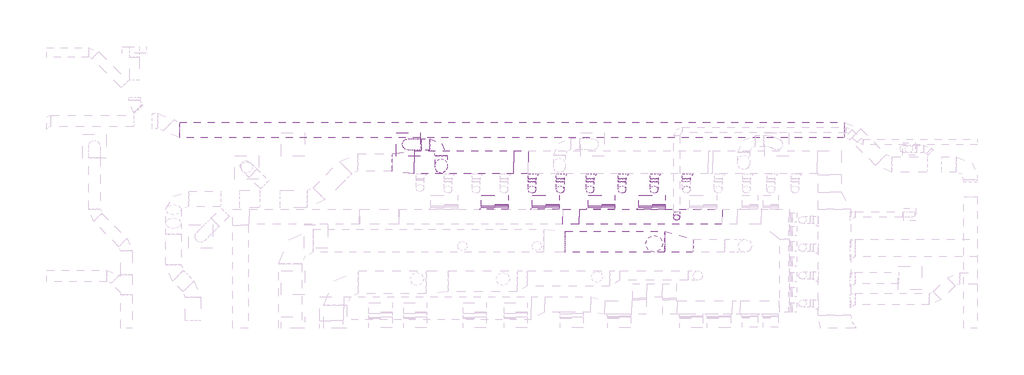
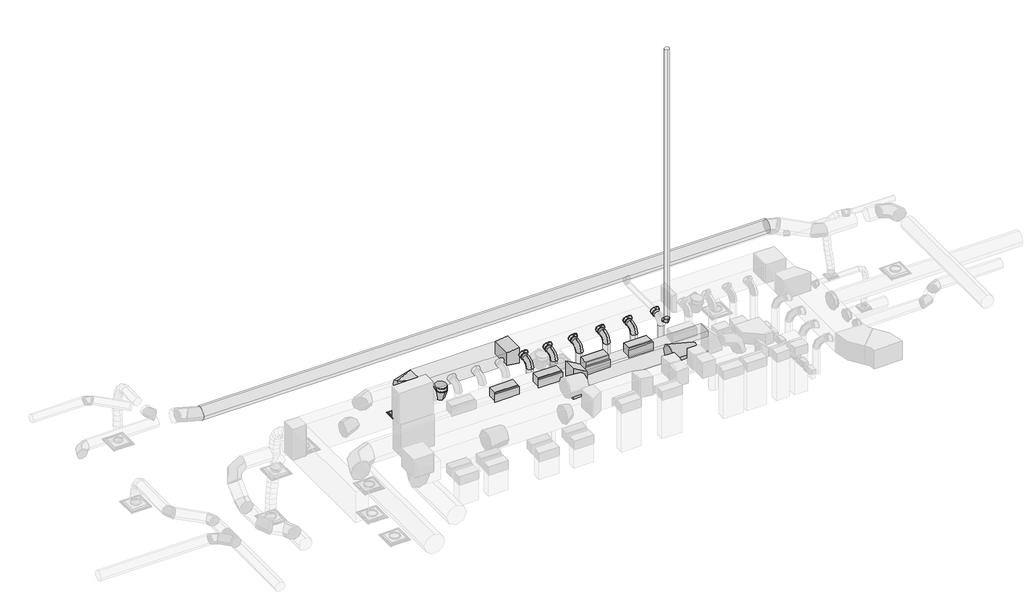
# One storey, part 23 of 33: 28 duct segments, 27 duct fittings, 1 air terminal.
"""IFC4 building model written with IfcOpenShell, lengths in millimetres."""

from ifc_helpers import new_model, si_unit, point, frame, frame_2d, origin, place, context, project, spatial, polyline, circle_curve, ellipse_curve, trimmed, segment, composite_curve, outline, extrude, transform, mapped, element, save
from ifc_brep_helpers import plane_surface, cylinder_surface, advanced_brep
from components import air_terminal_edad7168, rectangular_elbow_mitered_standard_22d18bc9, rectangular_tap_beveled_standard_61150e1b, rectangular_transition_angle_15_degree_f904afc0, rectangular_transition_angle_30_degree_5d7b45e3, rectangular_to_round_transition_angle_15_degree_e7a519f7, round_elbow_1_d_b37ad80b, round_elbow_1_d_a253342a, round_elbow_1_d_dc33e73c, round_takeoff_shoe_standard_1102fee2, round_takeoff_shoe_standard_53aee1e3, round_transition_angle_15_degree_ade4631c

model = new_model("IFC4")

# Units and contexts
model_context = context("Model", 3, world=origin())
ifc_project = project(units=[si_unit("LENGTHUNIT", "METRE", prefix="MILLI")], contexts=[model_context])

# Site, building, storey
site = spatial("IfcSite", under=ifc_project)
building = spatial("IfcBuilding", under=site)
storey = spatial("IfcBuildingStorey", under=building, Name="T.O. SLAB - 1ST", Elevation=-25.4)

# Air terminal
placement = place(None, origin())
air_terminal_shape = air_terminal_edad7168(model_context)
element("IfcAirTerminal", 1, ObjectType="Titus-Round_Neck_Supply_Diffuser-PCS_Surface_Mount : PCS AA-12_24x24", at=placement, inside=storey, context=model_context, shape_type="MappedRepresentation", body=[
    mapped(air_terminal_shape, transform((16332.2, 30772.0034288, 2717.8), x_axis=(0.0, -1.0, 0.0), y_axis=(-1.0, 0.0, 0.0), z_axis=(0.0, 0.0, -1.0))),
])

# Duct fittings
rectangular_elbow_mitered_standard_shape = rectangular_elbow_mitered_standard_22d18bc9(model_context)
element("IfcDuctFitting", 2, ObjectType="Rectangular Elbow - Mitered : Standard", at=placement, inside=storey, context=model_context, shape_type="MappedRepresentation", body=[
    mapped(rectangular_elbow_mitered_standard_shape, transform((18627.1906001, 29296.6861634, 3632.2), x_axis=(0.0, 0.0, 1.0), y_axis=(0.0, -1.0, 0.0), z_axis=(1.0, 0.0, 0.0))),
])
element("IfcDuctFitting", 3, ObjectType="Rectangular Elbow - Mitered : Standard", at=placement, inside=storey, context=model_context, shape_type="MappedRepresentation", body=[
    mapped(rectangular_elbow_mitered_standard_shape, transform((19977.3339544, 29296.6861634, 3632.2), x_axis=(0.0, 0.0, 1.0), y_axis=(0.0, -1.0, 0.0), z_axis=(1.0, 0.0, 0.0))),
])
element("IfcDuctFitting", 4, ObjectType="Rectangular Elbow - Mitered : Standard", at=placement, inside=storey, context=model_context, shape_type="MappedRepresentation", body=[
    mapped(rectangular_elbow_mitered_standard_shape, transform((21448.7074222, 29296.6861634, 3632.2), x_axis=(0.0, 0.0, 1.0), y_axis=(0.0, -1.0, 0.0), z_axis=(1.0, 0.0, 0.0))),
])
element("IfcDuctFitting", 5, ObjectType="Rectangular Elbow - Mitered : Standard", at=placement, inside=storey, context=model_context, shape_type="MappedRepresentation", body=[
    mapped(rectangular_elbow_mitered_standard_shape, transform((22784.2453145, 29296.6861634, 3632.2), x_axis=(0.0, 0.0, 1.0), y_axis=(0.0, -1.0, 0.0), z_axis=(1.0, 0.0, 0.0))),
])
rectangular_tap_beveled_standard_shape = rectangular_tap_beveled_standard_61150e1b(model_context)
element("IfcDuctFitting", 6, ObjectType="Rectangular Tap - Beveled : Standard", at=placement, inside=storey, context=model_context, shape_type="MappedRepresentation", body=[
    mapped(rectangular_tap_beveled_standard_shape, transform((18627.1906001, 29062.2191303, 3632.2), x_axis=(0.0, 1.0, 0.0), y_axis=(1.0, 0.0, 0.0), z_axis=(0.0, 0.0, -1.0))),
])
element("IfcDuctFitting", 7, ObjectType="Rectangular Tap - Beveled : Standard", at=placement, inside=storey, context=model_context, shape_type="MappedRepresentation", body=[
    mapped(rectangular_tap_beveled_standard_shape, transform((19977.3339544, 29062.2191303, 3632.2), x_axis=(0.0, 1.0, 0.0), y_axis=(1.0, 0.0, 0.0), z_axis=(0.0, 0.0, -1.0))),
])
element("IfcDuctFitting", 8, ObjectType="Rectangular Tap - Beveled : Standard", at=placement, inside=storey, context=model_context, shape_type="MappedRepresentation", body=[
    mapped(rectangular_tap_beveled_standard_shape, transform((21448.7074222, 29062.2191303, 3530.6), x_axis=(0.0, 1.0, 0.0), y_axis=(1.0, 0.0, 0.0), z_axis=(0.0, 0.0, -1.0))),
])
element("IfcDuctFitting", 9, ObjectType="Rectangular Tap - Beveled : Standard", at=placement, inside=storey, context=model_context, shape_type="MappedRepresentation", body=[
    mapped(rectangular_tap_beveled_standard_shape, transform((22784.2453145, 29062.2191303, 3632.2), x_axis=(0.0, 1.0, 0.0), y_axis=(1.0, 0.0, 0.0), z_axis=(0.0, 0.0, -1.0))),
])
rectangular_transition_angle_15_degree_shape = rectangular_transition_angle_15_degree_f904afc0(model_context)
element("IfcDuctFitting", 10, ObjectType="Rectangular Transition - Angle : 15 Degree", at=placement, inside=storey, context=model_context, shape_type="MappedRepresentation", body=[
    mapped(rectangular_transition_angle_15_degree_shape, transform((19515.6150589, 30294.4408687, 4038.6), x_axis=(-1.0, 0.0, 0.0), y_axis=(0.0, -1.0, 0.0), z_axis=(0.0, 0.0, 1.0))),
])
rectangular_transition_angle_30_degree_shape = rectangular_transition_angle_30_degree_5d7b45e3(model_context)
element("IfcDuctFitting", 11, ObjectType="Rectangular Transition - Angle : 30 Degree", at=placement, inside=storey, context=model_context, shape_type="MappedRepresentation", body=[
    mapped(rectangular_transition_angle_30_degree_shape, transform((20419.896851, 28859.0191303, 3583.94), x_axis=(1.0, 0.0, 0.0), y_axis=(0.0, 1.0, 0.0), z_axis=(0.0, 0.0, 1.0))),
])
rectangular_to_round_transition_angle_15_degree_shape = rectangular_to_round_transition_angle_15_degree_e7a519f7(model_context)
element("IfcDuctFitting", 12, ObjectType="Rectangular to Round Transition - Angle : 15 Degree", at=placement, inside=storey, context=model_context, shape_type="MappedRepresentation", body=[
    mapped(rectangular_to_round_transition_angle_15_degree_shape, transform((16486.9873343, 30294.4408687, 4038.6), x_axis=(-1.0, 0.0, 0.0), y_axis=(0.0, -1.0, 0.0), z_axis=(0.0, 0.0, 1.0))),
])
round_elbow_1_d_shape = round_elbow_1_d_b37ad80b(model_context)
element("IfcDuctFitting", 13, ObjectType="Round Elbow : 1 D", at=placement, inside=storey, context=model_context, shape_type="MappedRepresentation", body=[
    mapped(round_elbow_1_d_shape, transform((23437.194317, 28838.9610782, 4437.3601563), x_axis=(0.0, -1.0, 0.0), y_axis=(0.0, 0.0, 1.0), z_axis=(-1.0, 0.0, 0.0))),
])
round_elbow_1_d_2_shape = round_elbow_1_d_a253342a(model_context)
element("IfcDuctFitting", 14, ObjectType="Round Elbow : 1 D", at=placement, inside=storey, context=model_context, shape_type="MappedRepresentation", body=[
    mapped(round_elbow_1_d_2_shape, transform((22841.1839544, 29579.704725, 4038.6), x_axis=(0.0, 0.0, 1.0), y_axis=(0.0, 1.0, 0.0), z_axis=(-1.0, 0.0, 0.0))),
])
element("IfcDuctFitting", 15, ObjectType="Round Elbow : 1 D", at=placement, inside=storey, context=model_context, shape_type="MappedRepresentation", body=[
    mapped(round_elbow_1_d_2_shape, transform((21990.2839544, 29579.704725, 4038.6), x_axis=(0.0, 0.0, 1.0), y_axis=(0.0, 1.0, 0.0), z_axis=(-1.0, 0.0, 0.0))),
])
element("IfcDuctFitting", 16, ObjectType="Round Elbow : 1 D", at=placement, inside=storey, context=model_context, shape_type="MappedRepresentation", body=[
    mapped(round_elbow_1_d_2_shape, transform((21145.7339544, 29579.704725, 4038.6), x_axis=(0.0, 0.0, 1.0), y_axis=(0.0, 1.0, 0.0), z_axis=(-1.0, 0.0, 0.0))),
])
element("IfcDuctFitting", 17, ObjectType="Round Elbow : 1 D", at=placement, inside=storey, context=model_context, shape_type="MappedRepresentation", body=[
    mapped(round_elbow_1_d_2_shape, transform((20355.7163892, 29579.704725, 4038.6), x_axis=(0.0, 0.0, 1.0), y_axis=(0.0, 1.0, 0.0), z_axis=(-1.0, 0.0, 0.0))),
])
element("IfcDuctFitting", 18, ObjectType="Round Elbow : 1 D", at=placement, inside=storey, context=model_context, shape_type="MappedRepresentation", body=[
    mapped(round_elbow_1_d_2_shape, transform((19609.0339544, 29579.704725, 4038.6), x_axis=(0.0, 0.0, 1.0), y_axis=(0.0, 1.0, 0.0), z_axis=(-1.0, 0.0, 0.0))),
])
round_elbow_1_d_3_shape = round_elbow_1_d_dc33e73c(model_context)
element("IfcDuctFitting", 19, ObjectType="Round Elbow : 1 D", at=placement, inside=storey, context=model_context, shape_type="MappedRepresentation", body=[
    mapped(round_elbow_1_d_3_shape, transform((17207.4477773, 30772.4213586, 3295.904), x_axis=(1.0, 0.0, 0.0), y_axis=(0.0, 1.0, 0.0), z_axis=(0.0, 0.0, 1.0))),
])
element("IfcDuctFitting", 20, ObjectType="Round Elbow : 1 D", at=placement, inside=storey, context=model_context, shape_type="MappedRepresentation", body=[
    mapped(round_elbow_1_d_3_shape, transform((17207.4477773, 30162.8213586, 3295.904), x_axis=(0.0, -1.0, 0.0), y_axis=(0.0, 0.0, -1.0), z_axis=(1.0, 0.0, 0.0))),
])
round_takeoff_shoe_standard_shape = round_takeoff_shoe_standard_1102fee2(model_context)
element("IfcDuctFitting", 21, ObjectType="Round Takeoff - Shoe : Standard", at=placement, inside=storey, context=model_context, shape_type="MappedRepresentation", body=[
    mapped(round_takeoff_shoe_standard_shape, transform((23691.2432215, 29989.6408687, 4038.6), x_axis=(0.0, -1.0, 0.0), y_axis=(1.0000000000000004, 0.0, 0.0), z_axis=(0.0, 0.0, 1.0000000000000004))),
])
element("IfcDuctFitting", 22, ObjectType="Round Takeoff - Shoe : Standard", at=placement, inside=storey, context=model_context, shape_type="MappedRepresentation", body=[
    mapped(round_takeoff_shoe_standard_shape, transform((22841.1839544, 29989.6408687, 4038.6), x_axis=(0.0, -1.0, 0.0), y_axis=(1.0000000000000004, 0.0, 0.0), z_axis=(0.0, 0.0, 1.0000000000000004))),
])
element("IfcDuctFitting", 23, ObjectType="Round Takeoff - Shoe : Standard", at=placement, inside=storey, context=model_context, shape_type="MappedRepresentation", body=[
    mapped(round_takeoff_shoe_standard_shape, transform((21990.2839544, 29989.6408687, 4038.6), x_axis=(0.0, -1.0, 0.0), y_axis=(1.0000000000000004, 0.0, 0.0), z_axis=(0.0, 0.0, 1.0000000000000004))),
])
element("IfcDuctFitting", 24, ObjectType="Round Takeoff - Shoe : Standard", at=placement, inside=storey, context=model_context, shape_type="MappedRepresentation", body=[
    mapped(round_takeoff_shoe_standard_shape, transform((21145.7339544, 29989.6408687, 4038.6), x_axis=(0.0, -1.0, 0.0), y_axis=(1.0000000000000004, 0.0, 0.0), z_axis=(0.0, 0.0, 1.0000000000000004))),
])
element("IfcDuctFitting", 25, ObjectType="Round Takeoff - Shoe : Standard", at=placement, inside=storey, context=model_context, shape_type="MappedRepresentation", body=[
    mapped(round_takeoff_shoe_standard_shape, transform((20355.7163892, 29989.6408687, 4038.6), x_axis=(0.0, -1.0, 0.0), y_axis=(1.0000000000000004, 0.0, 0.0), z_axis=(0.0, 0.0, 1.0000000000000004))),
])
element("IfcDuctFitting", 26, ObjectType="Round Takeoff - Shoe : Standard", at=placement, inside=storey, context=model_context, shape_type="MappedRepresentation", body=[
    mapped(round_takeoff_shoe_standard_shape, transform((19609.0339544, 29989.6408687, 4038.6), x_axis=(0.0, -1.0, 0.0), y_axis=(1.0000000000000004, 0.0, 0.0), z_axis=(0.0, 0.0, 1.0000000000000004))),
])
round_takeoff_shoe_standard_2_shape = round_takeoff_shoe_standard_53aee1e3(model_context)
element("IfcDuctFitting", 27, ObjectType="Round Takeoff - Shoe : Standard", at=placement, inside=storey, context=model_context, shape_type="MappedRepresentation", body=[
    mapped(round_takeoff_shoe_standard_2_shape, transform((17207.4477773, 30162.8213586, 3727.704), x_axis=(0.0, 0.0, -1.0), y_axis=(0.0, -1.0000000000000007, 0.0), z_axis=(-1.0000000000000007, 0.0, 0.0))),
])
round_transition_angle_15_degree_shape = round_transition_angle_15_degree_ade4631c(model_context)
element("IfcDuctFitting", 28, ObjectType="Round Transition - Angle : 15 Degree", at=placement, inside=storey, context=model_context, shape_type="MappedRepresentation", body=[
    mapped(round_transition_angle_15_degree_shape, transform((23120.5839544, 28192.2045473, 3892.55), x_axis=(1.0, 0.0, 0.0), y_axis=(0.0, 1.0, 0.0), z_axis=(0.0, 0.0, 1.0))),
])

# Duct segments
element("IfcDuctSegment", 29, ObjectType="Flex - Round", at=placement, inside=storey, context=model_context, shape_type="AdvancedBrep", body=[
    advanced_brep(
    [(16674.0477773, 30620.0213586, 3295.904), (16674.0477773, 30772.4213586, 3143.504), (16674.0477773, 30924.8213586, 3295.904), (16674.0477773, 30772.4213586, 3448.304), (16643.5881971, 30620.0213586, 3295.904), (16667.7773564, 30772.4213586, 3143.504), (16643.5208732, 30924.8213586, 3295.904), (16619.3317139, 30772.4213586, 3448.304), (16332.338602, 30619.6034919, 2806.7), (16179.800063, 30771.8648268, 2806.7), (16332.061398, 30924.4033658, 2806.7), (16484.599937, 30772.1420308, 2806.7), (16592.5598146, 30619.9982322, 3279.2624419), (16657.2826116, 30772.4166023, 3140.0814164), (16592.3857623, 30924.7981838, 3279.2276353), (16527.6629652, 30772.3798137, 3418.4086608), (16519.4014027, 30619.9385577, 3233.7584128), (16616.8674096, 30772.3836361, 3114.9434387), (16519.1543026, 30924.7384498, 3233.678171), (16421.6882957, 30772.2933714, 3352.4931451), (16456.1268652, 30619.8569477, 3166.0609758), (16577.4643711, 30772.332815, 3072.7861219), (16455.8388479, 30924.656787, 3165.9369566), (16334.501342, 30772.1809196, 3259.2118105), (16404.2571944, 30619.7680099, 3082.8331011), (16539.7974276, 30772.2682298, 3012.3473412), (16403.9581789, 30924.5678304, 3082.6914346), (16268.4179458, 30772.0676105, 3153.1771945), (16365.3194439, 30619.6863687, 2990.7488126), (16509.8783511, 30772.2054981, 2941.5914082), (16365.0250152, 30924.4861987, 2990.6179937), (16220.4661081, 30771.9670693, 3039.7753981), (16340.8383008, 30619.6266516, 2896.4826364), (16490.9244625, 30772.1592637, 2868.6082721), (16340.5544428, 30924.4265074, 2896.3925205), (16190.4682811, 30771.8938952, 2924.2668848), (16332.338602, 30619.6034919, 2821.080616), (16484.599937, 30772.1420308, 2812.5025189), (16332.061398, 30924.4033658, 2821.0495288), (16179.800063, 30771.8648268, 2829.627626)],
    [
        (0, 1, circle_curve(frame((16674.0477773, 30772.4213586, 3295.904), z_axis=(1.0, 0.0, 0.0), x_axis=(0.0, -1.0, 0.0)), 152.4)),
        (1, 2, circle_curve(frame((16674.0477773, 30772.4213586, 3295.904), z_axis=(1.0, 0.0, 0.0), x_axis=(0.0, -1.0, 0.0)), 152.4)),
        (2, 3, circle_curve(frame((16674.0477773, 30772.4213586, 3295.904), z_axis=(1.0, 0.0, 0.0), x_axis=(0.0, -1.0, 0.0)), 152.4)),
        (3, 0, circle_curve(frame((16674.0477773, 30772.4213586, 3295.904), z_axis=(1.0, 0.0, 0.0), x_axis=(0.0, -1.0, 0.0)), 152.4)),
        (0, 4),
        (4, 5, ellipse_curve(frame((16643.5545352, 30772.4213586, 3295.904), z_axis=(0.9876030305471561, 0.00021814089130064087, 0.15697199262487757), x_axis=(0.15697214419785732, -0.0013724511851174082, -0.9876020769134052)), 154.3130137, 152.4)),
        (5, 1),
        (5, 6, ellipse_curve(frame((16643.5545352, 30772.4213586, 3295.904), z_axis=(0.9876030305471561, 0.00021814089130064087, 0.15697199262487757), x_axis=(0.15697214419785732, -0.0013724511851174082, -0.9876020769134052)), 154.3130137, 152.4)),
        (6, 2),
        (6, 7, ellipse_curve(frame((16643.5545352, 30772.4213586, 3295.904), z_axis=(0.9876030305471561, 0.00021814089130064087, 0.15697199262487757), x_axis=(0.15697214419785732, -0.0013724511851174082, -0.9876020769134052)), 154.3130137, 152.4)),
        (7, 3),
        (7, 4, ellipse_curve(frame((16643.5545352, 30772.4213586, 3295.904), z_axis=(0.9876030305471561, 0.00021814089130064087, 0.15697199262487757), x_axis=(0.15697214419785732, -0.0013724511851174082, -0.9876020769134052)), 154.3130137, 152.4)),
        (8, 9, circle_curve(frame((16332.2, 30772.0034288, 2806.7), z_axis=(0.0, 0.0, -1.0), x_axis=(0.0009094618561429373, -0.9999995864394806, 0.0)), 152.4)),
        (9, 10, circle_curve(frame((16332.2, 30772.0034288, 2806.7), z_axis=(0.0, 0.0, -1.0), x_axis=(0.0009094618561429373, -0.9999995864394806, 0.0)), 152.4)),
        (10, 11, circle_curve(frame((16332.2, 30772.0034288, 2806.7), z_axis=(0.0, 0.0, -1.0), x_axis=(0.0009094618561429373, -0.9999995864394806, 0.0)), 152.4)),
        (11, 8, circle_curve(frame((16332.2, 30772.0034288, 2806.7), z_axis=(0.0, 0.0, -1.0), x_axis=(0.0009094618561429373, -0.9999995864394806, 0.0)), 152.4)),
        (4, 12),
        (12, 13, ellipse_curve(frame((16592.4727884, 30772.398208, 3279.2450386), z_axis=(0.9065151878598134, 0.0005658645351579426, 0.42217282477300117), x_axis=(0.4221732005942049, -0.0010879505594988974, -0.9065145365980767)), 153.5149106, 152.4)),
        (13, 5),
        (13, 14, ellipse_curve(frame((16592.4727884, 30772.398208, 3279.2450386), z_axis=(0.9065151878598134, 0.0005658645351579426, 0.42217282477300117), x_axis=(0.4221732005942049, -0.0010879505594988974, -0.9065145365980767)), 153.5149106, 152.4)),
        (14, 6),
        (14, 15, ellipse_curve(frame((16592.4727884, 30772.398208, 3279.2450386), z_axis=(0.9065151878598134, 0.0005658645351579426, 0.42217282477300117), x_axis=(0.4221732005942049, -0.0010879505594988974, -0.9065145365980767)), 153.5149106, 152.4)),
        (15, 7),
        (15, 12, ellipse_curve(frame((16592.4727884, 30772.398208, 3279.2450386), z_axis=(0.9065151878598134, 0.0005658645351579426, 0.42217282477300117), x_axis=(0.4221732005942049, -0.0010879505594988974, -0.9065145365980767)), 153.5149106, 152.4)),
        (12, 16),
        (16, 17, ellipse_curve(frame((16519.2778527, 30772.3385038, 3233.7182919), z_axis=(0.7726476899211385, 0.000793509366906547, 0.6348345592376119), x_axis=(0.6348350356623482, -0.0007179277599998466, -0.7726473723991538)), 153.7243957, 152.4)),
        (17, 13),
        (17, 18, ellipse_curve(frame((16519.2778527, 30772.3385038, 3233.7182919), z_axis=(0.7726476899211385, 0.000793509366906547, 0.6348345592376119), x_axis=(0.6348350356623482, -0.0007179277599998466, -0.7726473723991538)), 153.7243957, 152.4)),
        (18, 14),
        (18, 19, ellipse_curve(frame((16519.2778527, 30772.3385038, 3233.7182919), z_axis=(0.7726476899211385, 0.000793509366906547, 0.6348345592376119), x_axis=(0.6348350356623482, -0.0007179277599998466, -0.7726473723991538)), 153.7243957, 152.4)),
        (19, 15),
        (19, 16, ellipse_curve(frame((16519.2778527, 30772.3385038, 3233.7182919), z_axis=(0.7726476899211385, 0.000793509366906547, 0.6348345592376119), x_axis=(0.6348350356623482, -0.0007179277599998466, -0.7726473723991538)), 153.7243957, 152.4)),
        (16, 20),
        (20, 21, ellipse_curve(frame((16455.9828566, 30772.2568673, 3165.9989662), z_axis=(0.6087476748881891, 0.0008980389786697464, 0.7933633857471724), x_axis=(0.7933637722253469, -0.00013498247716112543, -0.6087478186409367)), 153.1221688, 152.4)),
        (21, 17),
        (21, 22, ellipse_curve(frame((16455.9828566, 30772.2568673, 3165.9989662), z_axis=(0.6087476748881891, 0.0008980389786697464, 0.7933633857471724), x_axis=(0.7933637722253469, -0.00013498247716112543, -0.6087478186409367)), 153.1221688, 152.4)),
        (22, 18),
        (22, 23, ellipse_curve(frame((16455.9828566, 30772.2568673, 3165.9989662), z_axis=(0.6087476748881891, 0.0008980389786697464, 0.7933633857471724), x_axis=(0.7933637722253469, -0.00013498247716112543, -0.6087478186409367)), 153.1221688, 152.4)),
        (23, 19),
        (23, 20, ellipse_curve(frame((16455.9828566, 30772.2568673, 3165.9989662), z_axis=(0.6087476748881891, 0.0008980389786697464, 0.7933633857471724), x_axis=(0.7933637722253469, -0.00013498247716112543, -0.6087478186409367)), 153.1221688, 152.4)),
        (20, 24),
        (24, 25, ellipse_curve(frame((16404.1076867, 30772.1679202, 3082.7622678), z_axis=(0.4606117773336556, 0.0008644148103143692, 0.8876012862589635), x_axis=(0.8876012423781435, 0.0005748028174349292, -0.46061231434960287)), 152.8724231, 152.4)),
        (25, 21),
        (25, 26, ellipse_curve(frame((16404.1076867, 30772.1679202, 3082.7622678), z_axis=(0.4606117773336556, 0.0008644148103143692, 0.8876012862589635), x_axis=(0.8876012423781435, 0.0005748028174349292, -0.46061231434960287)), 152.8724231, 152.4)),
        (26, 22),
        (26, 27, ellipse_curve(frame((16404.1076867, 30772.1679202, 3082.7622678), z_axis=(0.4606117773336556, 0.0008644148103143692, 0.8876012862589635), x_axis=(0.8876012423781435, 0.0005748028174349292, -0.46061231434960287)), 152.8724231, 152.4)),
        (27, 23),
        (27, 24, ellipse_curve(frame((16404.1076867, 30772.1679202, 3082.7622678), z_axis=(0.4606117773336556, 0.0008644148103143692, 0.8876012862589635), x_axis=(0.8876012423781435, 0.0005748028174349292, -0.46061231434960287)), 152.8724231, 152.4)),
        (24, 28),
        (28, 29, ellipse_curve(frame((16365.1722296, 30772.0862837, 2990.6834032), z_axis=(0.32126800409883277, 0.0007167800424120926, 0.9469880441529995), x_axis=(0.9469870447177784, 0.001395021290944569, -0.32126872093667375)), 152.8067401, 152.4)),
        (29, 25),
        (29, 30, ellipse_curve(frame((16365.1722296, 30772.0862837, 2990.6834032), z_axis=(0.32126800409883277, 0.0007167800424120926, 0.9469880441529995), x_axis=(0.9469870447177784, 0.001395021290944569, -0.32126872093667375)), 152.8067401, 152.4)),
        (30, 26),
        (30, 31, ellipse_curve(frame((16365.1722296, 30772.0862837, 2990.6834032), z_axis=(0.32126800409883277, 0.0007167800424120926, 0.9469880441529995), x_axis=(0.9469870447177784, 0.001395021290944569, -0.32126872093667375)), 152.8067401, 152.4)),
        (31, 27),
        (31, 28, ellipse_curve(frame((16365.1722296, 30772.0862837, 2990.6834032), z_axis=(0.32126800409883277, 0.0007167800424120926, 0.9469880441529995), x_axis=(0.9469870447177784, 0.001395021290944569, -0.32126872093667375)), 152.8067401, 152.4)),
        (28, 32),
        (32, 33, ellipse_curve(frame((16340.6963718, 30772.0265795, 2896.4375784), z_axis=(0.18214763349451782, 0.00046034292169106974, 0.9832710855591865), x_axis=(0.9832686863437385, 0.0021728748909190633, -0.18214820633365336)), 152.7840546, 152.4)),
        (33, 29),
        (33, 34, ellipse_curve(frame((16340.6963718, 30772.0265795, 2896.4375784), z_axis=(0.18214763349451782, 0.00046034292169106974, 0.9832710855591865), x_axis=(0.9832686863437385, 0.0021728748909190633, -0.18214820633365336)), 152.7840546, 152.4)),
        (34, 30),
        (34, 35, ellipse_curve(frame((16340.6963718, 30772.0265795, 2896.4375784), z_axis=(0.18214763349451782, 0.00046034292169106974, 0.9832710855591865), x_axis=(0.9832686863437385, 0.0021728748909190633, -0.18214820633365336)), 152.7840546, 152.4)),
        (35, 31),
        (35, 32, ellipse_curve(frame((16340.6963718, 30772.0265795, 2896.4375784), z_axis=(0.18214763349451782, 0.00046034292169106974, 0.9832710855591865), x_axis=(0.9832686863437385, 0.0021728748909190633, -0.18214820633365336)), 152.7840546, 152.4)),
        (32, 36),
        (36, 37, ellipse_curve(frame((16332.2, 30772.0034288, 2821.0650724), z_axis=(0.056096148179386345, 0.000152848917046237, 0.99842535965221), x_axis=(0.9984216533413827, 0.002720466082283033, -0.05609635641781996)), 152.6403537, 152.4)),
        (37, 33),
        (37, 38, ellipse_curve(frame((16332.2, 30772.0034288, 2821.0650724), z_axis=(0.056096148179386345, 0.000152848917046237, 0.99842535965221), x_axis=(0.9984216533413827, 0.002720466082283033, -0.05609635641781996)), 152.6403537, 152.4)),
        (38, 34),
        (38, 39, ellipse_curve(frame((16332.2, 30772.0034288, 2821.0650724), z_axis=(0.056096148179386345, 0.000152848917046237, 0.99842535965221), x_axis=(0.9984216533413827, 0.002720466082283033, -0.05609635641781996)), 152.6403537, 152.4)),
        (39, 35),
        (39, 36, ellipse_curve(frame((16332.2, 30772.0034288, 2821.0650724), z_axis=(0.056096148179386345, 0.000152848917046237, 0.99842535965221), x_axis=(0.9984216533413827, 0.002720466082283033, -0.05609635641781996)), 152.6403537, 152.4)),
        (36, 8),
        (11, 37),
        (10, 38),
        (9, 39),
    ],
    [
        plane_surface(frame((16674.0477773, 30772.4213586, 3143.504), z_axis=(1.0, 0.0, 0.0), x_axis=(0.0, -1.0, 0.0))),
        cylinder_surface(frame((16674.0477773, 30772.4213586, 3295.904), z_axis=(1.0, 0.0, 0.0), x_axis=(0.0, -1.0, 0.0)), 152.4),
        plane_surface(frame((16332.2, 30619.6034288, 2806.7), z_axis=(0.0, 0.0, -1.0), x_axis=(-1.0, 0.0, 0.0))),
        cylinder_surface(frame((16643.5545352, 30772.4213586, 3295.904), z_axis=(0.9507194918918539, 0.00043087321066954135, 0.3100520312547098), x_axis=(0.0004308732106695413, -0.9999999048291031, 6.848402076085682e-05)), 152.4),
        cylinder_surface(frame((16592.4727884, 30772.398208, 3279.2450386), z_axis=(0.8491436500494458, 0.0006926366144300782, 0.5281615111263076), x_axis=(0.0006962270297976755, -0.999999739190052, 0.00019206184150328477)), 152.4),
        cylinder_surface(frame((16519.2778527, 30772.3385038, 3233.7182919), z_axis=(0.682838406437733, 0.0008807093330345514, 0.7305689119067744), x_axis=(0.000902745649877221, -0.9999995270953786, 0.0003617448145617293)), 152.4),
        cylinder_surface(frame((16455.9828566, 30772.2568673, 3165.9989662), z_axis=(0.5289148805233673, 0.0009068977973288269, 0.8486743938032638), x_axis=(0.0009776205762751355, -0.999999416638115, 0.00045932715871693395)), 152.4),
        cylinder_surface(frame((16404.1076867, 30772.1679202, 3082.7622678), z_axis=(0.38946180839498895, 0.0008165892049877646, 0.921042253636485), x_axis=(0.000983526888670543, -0.9999994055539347, 0.0004707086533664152)), 152.4),
        cylinder_surface(frame((16365.1722296, 30772.0862837, 2990.6834032), z_axis=(0.25136390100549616, 0.0006131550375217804, 0.9678924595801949), x_axis=(0.0009546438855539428, -0.999999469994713, 0.00038557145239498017)), 152.4),
        cylinder_surface(frame((16340.6963718, 30772.0265795, 2896.4375784), z_axis=(0.1120156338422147, 0.0003052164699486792, 0.9937063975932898), x_axis=(0.0009208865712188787, -0.9999995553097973, 0.0002033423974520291)), 152.4),
        cylinder_surface(frame((16332.2, 30772.0034288, 2821.0650724), z_axis=(0.0, 0.0, 1.0), x_axis=(0.0009094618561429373, -0.9999995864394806, 0.0)), 152.4),
    ],
    [
        (0, [[1, 2, 3, 4]]),
        (1, [[-1, 5, 6, 7]]),
        (1, [[-2, -7, 8, 9]]),
        (1, [[-3, -9, 10, 11]]),
        (1, [[-4, -11, 12, -5]]),
        (2, [[13, 14, 15, 16]]),
        (3, [[-6, 17, 18, 19]]),
        (3, [[-8, -19, 20, 21]]),
        (3, [[-10, -21, 22, 23]]),
        (3, [[-12, -23, 24, -17]]),
        (4, [[-18, 25, 26, 27]]),
        (4, [[-20, -27, 28, 29]]),
        (4, [[-22, -29, 30, 31]]),
        (4, [[-24, -31, 32, -25]]),
        (5, [[-26, 33, 34, 35]]),
        (5, [[-28, -35, 36, 37]]),
        (5, [[-30, -37, 38, 39]]),
        (5, [[-32, -39, 40, -33]]),
        (6, [[-34, 41, 42, 43]]),
        (6, [[-36, -43, 44, 45]]),
        (6, [[-38, -45, 46, 47]]),
        (6, [[-40, -47, 48, -41]]),
        (7, [[-42, 49, 50, 51]]),
        (7, [[-44, -51, 52, 53]]),
        (7, [[-46, -53, 54, 55]]),
        (7, [[-48, -55, 56, -49]]),
        (8, [[-50, 57, 58, 59]]),
        (8, [[-52, -59, 60, 61]]),
        (8, [[-54, -61, 62, 63]]),
        (8, [[-56, -63, 64, -57]]),
        (9, [[-58, 65, 66, 67]]),
        (9, [[-60, -67, 68, 69]]),
        (9, [[-62, -69, 70, 71]]),
        (9, [[-64, -71, 72, -65]]),
        (10, [[-66, 73, -16, 74]]),
        (10, [[-68, -74, -15, 75]]),
        (10, [[-70, -75, -14, 76]]),
        (10, [[-72, -76, -13, -73]]),
    ],
),
])
element("IfcDuctSegment", 30, ObjectType="Mitered Elbows / Taps", at=placement, inside=storey, context=model_context, shape_type="SweptSolid", body=[
    extrude(outline(polyline([(20859.8377562, 28655.8191303), (20859.8377562, 29062.2191303), (24636.296851, 29062.2191303), (24636.296851, 28655.8191303), (20859.8377562, 28655.8191303)])), frame((0.0, 0.0, 3075.94), z_axis=(0.0, 0.0, 1.0), x_axis=(1.0, 0.0, 0.0)), (0.0, 0.0, 1.0), 762.0),
])
element("IfcDuctSegment", 31, ObjectType="Mitered Elbows / Taps", at=placement, inside=storey, context=model_context, shape_type="SweptSolid", body=[
    extrude(outline(polyline([(18982.7906001, 29169.6861634), (18271.5906001, 29169.6861634), (18271.5906001, 29423.6861634), (18982.7906001, 29423.6861634), (18982.7906001, 29169.6861634)])), frame((0.0, 0.0, 3010.628306), z_axis=(0.0, 0.0, 1.0), x_axis=(1.0, 0.0, 0.0)), (0.0, 0.0, 1.0), 469.171694),
])
element("IfcDuctSegment", 32, ObjectType="Mitered Elbows / Taps", at=placement, inside=storey, context=model_context, shape_type="SweptSolid", body=[
    extrude(outline(polyline([(18271.5906001, 29144.2861634), (18982.7906001, 29144.2861634), (18982.7906001, 29113.0191303), (18271.5906001, 29113.0191303), (18271.5906001, 29144.2861634)])), frame((0.0, 0.0, 3505.2), z_axis=(0.0, 0.0, 1.0), x_axis=(1.0, 0.0, 0.0)), (0.0, 0.0, 1.0), 254.0),
])
element("IfcDuctSegment", 33, ObjectType="Mitered Elbows / Taps", at=placement, inside=storey, context=model_context, shape_type="SweptSolid", body=[
    extrude(outline(polyline([(20332.9339544, 29169.6861634), (19621.7339544, 29169.6861634), (19621.7339544, 29423.6861634), (20332.9339544, 29423.6861634), (20332.9339544, 29169.6861634)])), frame((0.0, 0.0, 3010.628306), z_axis=(0.0, 0.0, 1.0), x_axis=(1.0, 0.0, 0.0)), (0.0, 0.0, 1.0), 469.171694),
])
element("IfcDuctSegment", 34, ObjectType="Mitered Elbows / Taps", at=placement, inside=storey, context=model_context, shape_type="SweptSolid", body=[
    extrude(outline(polyline([(19621.7339544, 29144.2861634), (20332.9339544, 29144.2861634), (20332.9339544, 29113.0191303), (19621.7339544, 29113.0191303), (19621.7339544, 29144.2861634)])), frame((0.0, 0.0, 3505.2), z_axis=(0.0, 0.0, 1.0), x_axis=(1.0, 0.0, 0.0)), (0.0, 0.0, 1.0), 254.0),
])
element("IfcDuctSegment", 35, ObjectType="Mitered Elbows / Taps", at=placement, inside=storey, context=model_context, shape_type="SweptSolid", body=[
    extrude(outline(polyline([(21804.3074222, 29169.6861634), (21093.1074222, 29169.6861634), (21093.1074222, 29423.6861634), (21804.3074222, 29423.6861634), (21804.3074222, 29169.6861634)])), frame((0.0, 0.0, 3010.628306), z_axis=(0.0, 0.0, 1.0), x_axis=(1.0, 0.0, 0.0)), (0.0, 0.0, 1.0), 469.171694),
])
element("IfcDuctSegment", 36, ObjectType="Mitered Elbows / Taps", at=placement, inside=storey, context=model_context, shape_type="SweptSolid", body=[
    extrude(outline(polyline([(21093.1074222, 29144.2861634), (21804.3074222, 29144.2861634), (21804.3074222, 29113.0191303), (21093.1074222, 29113.0191303), (21093.1074222, 29144.2861634)])), frame((0.0, 0.0, 3505.2), z_axis=(0.0, 0.0, 1.0), x_axis=(1.0, 0.0, 0.0)), (0.0, 0.0, 1.0), 254.0),
])
element("IfcDuctSegment", 37, ObjectType="Mitered Elbows / Taps", at=placement, inside=storey, context=model_context, shape_type="SweptSolid", body=[
    extrude(outline(polyline([(23139.8453145, 29169.6861634), (22428.6453145, 29169.6861634), (22428.6453145, 29423.6861634), (23139.8453145, 29423.6861634), (23139.8453145, 29169.6861634)])), frame((0.0, 0.0, 3010.628306), z_axis=(0.0, 0.0, 1.0), x_axis=(1.0, 0.0, 0.0)), (0.0, 0.0, 1.0), 469.171694),
])
element("IfcDuctSegment", 38, ObjectType="Mitered Elbows / Taps", at=placement, inside=storey, context=model_context, shape_type="SweptSolid", body=[
    extrude(outline(polyline([(22428.6453145, 29144.2861634), (23139.8453145, 29144.2861634), (23139.8453145, 29113.0191303), (22428.6453145, 29113.0191303), (22428.6453145, 29144.2861634)])), frame((0.0, 0.0, 3505.2), z_axis=(0.0, 0.0, 1.0), x_axis=(1.0, 0.0, 0.0)), (0.0, 0.0, 1.0), 254.0),
])
element("IfcDuctSegment", 39, ObjectType="Radius Elbows / Tees", at=placement, inside=storey, context=model_context, shape_type="SweptSolid", body=[
    extrude(outline(polyline([(19129.75075, 30599.2408687), (19129.75075, 29989.6408687), (16486.9873343, 29989.6408687), (16486.9873343, 30599.2408687), (19129.75075, 30599.2408687)])), frame((0.0, 0.0, 3835.4), z_axis=(0.0, 0.0, 1.0), x_axis=(1.0, 0.0, 0.0)), (0.0, 0.0, 1.0), 406.4),
])
element("IfcDuctSegment", 40, ObjectType="Taps", at=placement, inside=storey, context=model_context, shape_type="SweptSolid", body=[
    extrude(outline(composite_curve([segment(trimmed(circle_curve(frame_2d((4038.6, 23691.2432215)), 101.6), [point((4038.6, 23792.8432215))], [point((4140.2, 23691.2432215))], False, "CARTESIAN"), True, "CONTINUOUS"), segment(trimmed(circle_curve(frame_2d((4038.6, 23691.2432215)), 101.6), [point((4140.2, 23691.2432215))], [point((4038.6, 23589.6432215))], False, "CARTESIAN"), True, "CONTINUOUS"), segment(trimmed(circle_curve(frame_2d((4038.6, 23691.2432215)), 101.6), [point((4038.6, 23589.6432215))], [point((3937.0, 23691.2432215))], False, "CARTESIAN"), True, "CONTINUOUS"), segment(trimmed(circle_curve(frame_2d((4038.6, 23691.2432215)), 101.6), [point((3937.0, 23691.2432215))], [point((4038.6, 23792.8432215))], False, "CARTESIAN"), True, "CONTINUOUS")], self_intersect=False)), frame((0.0, 29782.904725, 0.0), z_axis=(0.0, 1.0, 0.0), x_axis=(0.0, 0.0, 1.0)), (0.0, 0.0, 1.0), 79.7361437),
])
element("IfcDuctSegment", 41, ObjectType="Taps", at=placement, inside=storey, context=model_context, shape_type="SweptSolid", body=[
    extrude(outline(composite_curve([segment(trimmed(circle_curve(frame_2d((23691.2432215, 29579.704725)), 101.6), [point((23792.8432215, 29579.704725))], [point((23691.2432215, 29478.104725))], False, "CARTESIAN"), True, "CONTINUOUS"), segment(trimmed(circle_curve(frame_2d((23691.2432215, 29579.704725)), 101.6), [point((23691.2432215, 29478.104725))], [point((23589.6432215, 29579.704725))], False, "CARTESIAN"), True, "CONTINUOUS"), segment(trimmed(circle_curve(frame_2d((23691.2432215, 29579.704725)), 101.6), [point((23589.6432215, 29579.704725))], [point((23691.2432215, 29681.304725))], False, "CARTESIAN"), True, "CONTINUOUS"), segment(trimmed(circle_curve(frame_2d((23691.2432215, 29579.704725)), 101.6), [point((23691.2432215, 29681.304725))], [point((23792.8432215, 29579.704725))], False, "CARTESIAN"), True, "CONTINUOUS")], self_intersect=False)), frame((0.0, 0.0, 3010.628306), z_axis=(0.0, 0.0, 1.0), x_axis=(1.0, 0.0, 0.0)), (0.0, 0.0, 1.0), 824.771694),
])
element("IfcDuctSegment", 42, ObjectType="Taps", at=placement, inside=storey, context=model_context, shape_type="SweptSolid", body=[
    extrude(outline(composite_curve([segment(trimmed(circle_curve(frame_2d((4038.6, 22841.1839544)), 101.6), [point((4038.6, 22942.7839544))], [point((4140.2, 22841.1839544))], False, "CARTESIAN"), True, "CONTINUOUS"), segment(trimmed(circle_curve(frame_2d((4038.6, 22841.1839544)), 101.6), [point((4140.2, 22841.1839544))], [point((4038.6, 22739.5839544))], False, "CARTESIAN"), True, "CONTINUOUS"), segment(trimmed(circle_curve(frame_2d((4038.6, 22841.1839544)), 101.6), [point((4038.6, 22739.5839544))], [point((3937.0, 22841.1839544))], False, "CARTESIAN"), True, "CONTINUOUS"), segment(trimmed(circle_curve(frame_2d((4038.6, 22841.1839544)), 101.6), [point((3937.0, 22841.1839544))], [point((4038.6, 22942.7839544))], False, "CARTESIAN"), True, "CONTINUOUS")], self_intersect=False)), frame((0.0, 29782.904725, 0.0), z_axis=(0.0, 1.0, 0.0), x_axis=(0.0, 0.0, 1.0)), (0.0, 0.0, 1.0), 79.7361437),
])
element("IfcDuctSegment", 43, ObjectType="Taps", at=placement, inside=storey, context=model_context, shape_type="SweptSolid", body=[
    extrude(outline(composite_curve([segment(trimmed(circle_curve(frame_2d((22841.1839544, 29579.704725)), 101.6), [point((22942.7839544, 29579.704725))], [point((22841.1839544, 29478.104725))], False, "CARTESIAN"), True, "CONTINUOUS"), segment(trimmed(circle_curve(frame_2d((22841.1839544, 29579.704725)), 101.6), [point((22841.1839544, 29478.104725))], [point((22739.5839544, 29579.704725))], False, "CARTESIAN"), True, "CONTINUOUS"), segment(trimmed(circle_curve(frame_2d((22841.1839544, 29579.704725)), 101.6), [point((22739.5839544, 29579.704725))], [point((22841.1839544, 29681.304725))], False, "CARTESIAN"), True, "CONTINUOUS"), segment(trimmed(circle_curve(frame_2d((22841.1839544, 29579.704725)), 101.6), [point((22841.1839544, 29681.304725))], [point((22942.7839544, 29579.704725))], False, "CARTESIAN"), True, "CONTINUOUS")], self_intersect=False)), frame((0.0, 0.0, 3010.628306), z_axis=(0.0, 0.0, 1.0), x_axis=(1.0, 0.0, 0.0)), (0.0, 0.0, 1.0), 824.771694),
])
element("IfcDuctSegment", 44, ObjectType="Taps", at=placement, inside=storey, context=model_context, shape_type="SweptSolid", body=[
    extrude(outline(composite_curve([segment(trimmed(circle_curve(frame_2d((4038.6, 21990.2839544)), 101.6), [point((4038.6, 22091.8839544))], [point((4140.2, 21990.2839544))], False, "CARTESIAN"), True, "CONTINUOUS"), segment(trimmed(circle_curve(frame_2d((4038.6, 21990.2839544)), 101.6), [point((4140.2, 21990.2839544))], [point((4038.6, 21888.6839544))], False, "CARTESIAN"), True, "CONTINUOUS"), segment(trimmed(circle_curve(frame_2d((4038.6, 21990.2839544)), 101.6), [point((4038.6, 21888.6839544))], [point((3937.0, 21990.2839544))], False, "CARTESIAN"), True, "CONTINUOUS"), segment(trimmed(circle_curve(frame_2d((4038.6, 21990.2839544)), 101.6), [point((3937.0, 21990.2839544))], [point((4038.6, 22091.8839544))], False, "CARTESIAN"), True, "CONTINUOUS")], self_intersect=False)), frame((0.0, 29782.904725, 0.0), z_axis=(0.0, 1.0, 0.0), x_axis=(0.0, 0.0, 1.0)), (0.0, 0.0, 1.0), 79.7361437),
])
element("IfcDuctSegment", 45, ObjectType="Taps", at=placement, inside=storey, context=model_context, shape_type="SweptSolid", body=[
    extrude(outline(composite_curve([segment(trimmed(circle_curve(frame_2d((21990.2839544, 29579.704725)), 101.6), [point((22091.8839544, 29579.704725))], [point((21990.2839544, 29478.104725))], False, "CARTESIAN"), True, "CONTINUOUS"), segment(trimmed(circle_curve(frame_2d((21990.2839544, 29579.704725)), 101.6), [point((21990.2839544, 29478.104725))], [point((21888.6839544, 29579.704725))], False, "CARTESIAN"), True, "CONTINUOUS"), segment(trimmed(circle_curve(frame_2d((21990.2839544, 29579.704725)), 101.6), [point((21888.6839544, 29579.704725))], [point((21990.2839544, 29681.304725))], False, "CARTESIAN"), True, "CONTINUOUS"), segment(trimmed(circle_curve(frame_2d((21990.2839544, 29579.704725)), 101.6), [point((21990.2839544, 29681.304725))], [point((22091.8839544, 29579.704725))], False, "CARTESIAN"), True, "CONTINUOUS")], self_intersect=False)), frame((0.0, 0.0, 3010.628306), z_axis=(0.0, 0.0, 1.0), x_axis=(1.0, 0.0, 0.0)), (0.0, 0.0, 1.0), 824.771694),
])
element("IfcDuctSegment", 46, ObjectType="Taps", at=placement, inside=storey, context=model_context, shape_type="SweptSolid", body=[
    extrude(outline(composite_curve([segment(trimmed(circle_curve(frame_2d((4038.6, 21145.7339544)), 101.6), [point((4038.6, 21247.3339544))], [point((4140.2, 21145.7339544))], False, "CARTESIAN"), True, "CONTINUOUS"), segment(trimmed(circle_curve(frame_2d((4038.6, 21145.7339544)), 101.6), [point((4140.2, 21145.7339544))], [point((4038.6, 21044.1339544))], False, "CARTESIAN"), True, "CONTINUOUS"), segment(trimmed(circle_curve(frame_2d((4038.6, 21145.7339544)), 101.6), [point((4038.6, 21044.1339544))], [point((3937.0, 21145.7339544))], False, "CARTESIAN"), True, "CONTINUOUS"), segment(trimmed(circle_curve(frame_2d((4038.6, 21145.7339544)), 101.6), [point((3937.0, 21145.7339544))], [point((4038.6, 21247.3339544))], False, "CARTESIAN"), True, "CONTINUOUS")], self_intersect=False)), frame((0.0, 29782.904725, 0.0), z_axis=(0.0, 1.0, 0.0), x_axis=(0.0, 0.0, 1.0)), (0.0, 0.0, 1.0), 79.7361437),
])
element("IfcDuctSegment", 47, ObjectType="Taps", at=placement, inside=storey, context=model_context, shape_type="SweptSolid", body=[
    extrude(outline(composite_curve([segment(trimmed(circle_curve(frame_2d((21145.7339544, 29579.704725)), 101.6), [point((21247.3339544, 29579.704725))], [point((21145.7339544, 29478.104725))], False, "CARTESIAN"), True, "CONTINUOUS"), segment(trimmed(circle_curve(frame_2d((21145.7339544, 29579.704725)), 101.6), [point((21145.7339544, 29478.104725))], [point((21044.1339544, 29579.704725))], False, "CARTESIAN"), True, "CONTINUOUS"), segment(trimmed(circle_curve(frame_2d((21145.7339544, 29579.704725)), 101.6), [point((21044.1339544, 29579.704725))], [point((21145.7339544, 29681.304725))], False, "CARTESIAN"), True, "CONTINUOUS"), segment(trimmed(circle_curve(frame_2d((21145.7339544, 29579.704725)), 101.6), [point((21145.7339544, 29681.304725))], [point((21247.3339544, 29579.704725))], False, "CARTESIAN"), True, "CONTINUOUS")], self_intersect=False)), frame((0.0, 0.0, 3010.628306), z_axis=(0.0, 0.0, 1.0), x_axis=(1.0, 0.0, 0.0)), (0.0, 0.0, 1.0), 824.771694),
])
element("IfcDuctSegment", 48, ObjectType="Taps", at=placement, inside=storey, context=model_context, shape_type="SweptSolid", body=[
    extrude(outline(composite_curve([segment(trimmed(circle_curve(frame_2d((4038.6, 20355.7163892)), 101.6), [point((4038.6, 20457.3163892))], [point((4140.2, 20355.7163892))], False, "CARTESIAN"), True, "CONTINUOUS"), segment(trimmed(circle_curve(frame_2d((4038.6, 20355.7163892)), 101.6), [point((4140.2, 20355.7163892))], [point((4038.6, 20254.1163892))], False, "CARTESIAN"), True, "CONTINUOUS"), segment(trimmed(circle_curve(frame_2d((4038.6, 20355.7163892)), 101.6), [point((4038.6, 20254.1163892))], [point((3937.0, 20355.7163892))], False, "CARTESIAN"), True, "CONTINUOUS"), segment(trimmed(circle_curve(frame_2d((4038.6, 20355.7163892)), 101.6), [point((3937.0, 20355.7163892))], [point((4038.6, 20457.3163892))], False, "CARTESIAN"), True, "CONTINUOUS")], self_intersect=False)), frame((0.0, 29782.904725, 0.0), z_axis=(0.0, 1.0, 0.0), x_axis=(0.0, 0.0, 1.0)), (0.0, 0.0, 1.0), 79.7361437),
])
element("IfcDuctSegment", 49, ObjectType="Taps", at=placement, inside=storey, context=model_context, shape_type="SweptSolid", body=[
    extrude(outline(composite_curve([segment(trimmed(circle_curve(frame_2d((20355.7163892, 29579.704725)), 101.6), [point((20457.3163892, 29579.704725))], [point((20355.7163892, 29478.104725))], False, "CARTESIAN"), True, "CONTINUOUS"), segment(trimmed(circle_curve(frame_2d((20355.7163892, 29579.704725)), 101.6), [point((20355.7163892, 29478.104725))], [point((20254.1163892, 29579.704725))], False, "CARTESIAN"), True, "CONTINUOUS"), segment(trimmed(circle_curve(frame_2d((20355.7163892, 29579.704725)), 101.6), [point((20254.1163892, 29579.704725))], [point((20355.7163892, 29681.304725))], False, "CARTESIAN"), True, "CONTINUOUS"), segment(trimmed(circle_curve(frame_2d((20355.7163892, 29579.704725)), 101.6), [point((20355.7163892, 29681.304725))], [point((20457.3163892, 29579.704725))], False, "CARTESIAN"), True, "CONTINUOUS")], self_intersect=False)), frame((0.0, 0.0, 3010.628306), z_axis=(0.0, 0.0, 1.0), x_axis=(1.0, 0.0, 0.0)), (0.0, 0.0, 1.0), 824.771694),
])
element("IfcDuctSegment", 50, ObjectType="Taps", at=placement, inside=storey, context=model_context, shape_type="SweptSolid", body=[
    extrude(outline(composite_curve([segment(trimmed(circle_curve(frame_2d((4038.6, 19609.0339544)), 101.6), [point((4038.6, 19710.6339544))], [point((4140.2, 19609.0339544))], False, "CARTESIAN"), True, "CONTINUOUS"), segment(trimmed(circle_curve(frame_2d((4038.6, 19609.0339544)), 101.6), [point((4140.2, 19609.0339544))], [point((4038.6, 19507.4339544))], False, "CARTESIAN"), True, "CONTINUOUS"), segment(trimmed(circle_curve(frame_2d((4038.6, 19609.0339544)), 101.6), [point((4038.6, 19507.4339544))], [point((3937.0, 19609.0339544))], False, "CARTESIAN"), True, "CONTINUOUS"), segment(trimmed(circle_curve(frame_2d((4038.6, 19609.0339544)), 101.6), [point((3937.0, 19609.0339544))], [point((4038.6, 19710.6339544))], False, "CARTESIAN"), True, "CONTINUOUS")], self_intersect=False)), frame((0.0, 29782.904725, 0.0), z_axis=(0.0, 1.0, 0.0), x_axis=(0.0, 0.0, 1.0)), (0.0, 0.0, 1.0), 79.7361437),
])
element("IfcDuctSegment", 51, ObjectType="Taps", at=placement, inside=storey, context=model_context, shape_type="SweptSolid", body=[
    extrude(outline(composite_curve([segment(trimmed(circle_curve(frame_2d((19609.0339544, 29579.704725)), 101.6), [point((19710.6339544, 29579.704725))], [point((19609.0339544, 29478.104725))], False, "CARTESIAN"), True, "CONTINUOUS"), segment(trimmed(circle_curve(frame_2d((19609.0339544, 29579.704725)), 101.6), [point((19609.0339544, 29478.104725))], [point((19507.4339544, 29579.704725))], False, "CARTESIAN"), True, "CONTINUOUS"), segment(trimmed(circle_curve(frame_2d((19609.0339544, 29579.704725)), 101.6), [point((19507.4339544, 29579.704725))], [point((19609.0339544, 29681.304725))], False, "CARTESIAN"), True, "CONTINUOUS"), segment(trimmed(circle_curve(frame_2d((19609.0339544, 29579.704725)), 101.6), [point((19609.0339544, 29681.304725))], [point((19710.6339544, 29579.704725))], False, "CARTESIAN"), True, "CONTINUOUS")], self_intersect=False)), frame((0.0, 0.0, 3010.628306), z_axis=(0.0, 0.0, 1.0), x_axis=(1.0, 0.0, 0.0)), (0.0, 0.0, 1.0), 824.771694),
])
element("IfcDuctSegment", 52, ObjectType="Taps", at=placement, inside=storey, context=model_context, shape_type="SweptSolid", body=[
    extrude(outline(composite_curve([segment(trimmed(circle_curve(frame_2d((31157.2807736, 4648.2)), 203.2), [point((30954.0807736, 4648.2))], [point((31157.2807736, 4851.4))], False, "CARTESIAN"), True, "CONTINUOUS"), segment(trimmed(circle_curve(frame_2d((31157.2807736, 4648.2)), 203.2), [point((31157.2807736, 4851.4))], [point((31360.4807736, 4648.2))], False, "CARTESIAN"), True, "CONTINUOUS"), segment(trimmed(circle_curve(frame_2d((31157.2807736, 4648.2)), 203.2), [point((31360.4807736, 4648.2))], [point((31157.2807736, 4445.0))], False, "CARTESIAN"), True, "CONTINUOUS"), segment(trimmed(circle_curve(frame_2d((31157.2807736, 4648.2)), 203.2), [point((31157.2807736, 4445.0))], [point((30954.0807736, 4648.2))], False, "CARTESIAN"), True, "CONTINUOUS")], self_intersect=False)), frame((10283.825, 0.0, 0.0), z_axis=(1.0, 0.0, 0.0), x_axis=(0.0, 1.0, 0.0)), (0.0, 0.0, 1.0), 17591.2321102),
])
element("IfcDuctSegment", 53, ObjectType="Taps", at=placement, inside=storey, context=model_context, shape_type="SweptSolid", body=[
    extrude(outline(composite_curve([segment(trimmed(circle_curve(frame_2d((30772.4213586, 3295.904)), 152.4), [point((30924.8213586, 3295.904))], [point((30772.4213586, 3143.504))], False, "CARTESIAN"), True, "CONTINUOUS"), segment(trimmed(circle_curve(frame_2d((30772.4213586, 3295.904)), 152.4), [point((30772.4213586, 3143.504))], [point((30620.0213586, 3295.904))], False, "CARTESIAN"), True, "CONTINUOUS"), segment(trimmed(circle_curve(frame_2d((30772.4213586, 3295.904)), 152.4), [point((30620.0213586, 3295.904))], [point((30772.4213586, 3448.304))], False, "CARTESIAN"), True, "CONTINUOUS"), segment(trimmed(circle_curve(frame_2d((30772.4213586, 3295.904)), 152.4), [point((30772.4213586, 3448.304))], [point((30924.8213586, 3295.904))], False, "CARTESIAN"), True, "CONTINUOUS")], self_intersect=False)), frame((16674.0477773, 0.0, 0.0), z_axis=(1.0, 0.0, 0.0), x_axis=(0.0, 1.0, 0.0)), (0.0, 0.0, 1.0), 228.6),
])
element("IfcDuctSegment", 54, ObjectType="Taps", at=placement, inside=storey, context=model_context, shape_type="SweptSolid", body=[
    extrude(outline(composite_curve([segment(trimmed(circle_curve(frame_2d((23437.194317, 28838.9610782)), 76.2), [point((23513.394317, 28838.9610782))], [point((23437.194317, 28762.7610782))], False, "CARTESIAN"), True, "CONTINUOUS"), segment(trimmed(circle_curve(frame_2d((23437.194317, 28838.9610782)), 76.2), [point((23437.194317, 28762.7610782))], [point((23360.994317, 28838.9610782))], False, "CARTESIAN"), True, "CONTINUOUS"), segment(trimmed(circle_curve(frame_2d((23437.194317, 28838.9610782)), 76.2), [point((23360.994317, 28838.9610782))], [point((23437.194317, 28915.1610782))], False, "CARTESIAN"), True, "CONTINUOUS"), segment(trimmed(circle_curve(frame_2d((23437.194317, 28838.9610782)), 76.2), [point((23437.194317, 28915.1610782))], [point((23513.394317, 28838.9610782))], False, "CARTESIAN"), True, "CONTINUOUS")], self_intersect=False)), frame((0.0, 0.0, 4589.7601563), z_axis=(0.0, 0.0, 1.0), x_axis=(1.0, 0.0, 0.0)), (0.0, 0.0, 1.0), 8839.2),
])
element("IfcDuctSegment", 55, ObjectType="Tees", at=placement, inside=storey, context=model_context, shape_type="SweptSolid", body=[
    extrude(outline(composite_curve([segment(trimmed(circle_curve(frame_2d((28192.2045473, 3892.55)), 279.4), [point((27912.8045473, 3892.55))], [point((28192.2045473, 4171.95))], False, "CARTESIAN"), True, "CONTINUOUS"), segment(trimmed(circle_curve(frame_2d((28192.2045473, 3892.55)), 279.4), [point((28192.2045473, 4171.95))], [point((28471.6045473, 3892.55))], False, "CARTESIAN"), True, "CONTINUOUS"), segment(trimmed(circle_curve(frame_2d((28192.2045473, 3892.55)), 279.4), [point((28471.6045473, 3892.55))], [point((28192.2045473, 3613.15))], False, "CARTESIAN"), True, "CONTINUOUS"), segment(trimmed(circle_curve(frame_2d((28192.2045473, 3892.55)), 279.4), [point((28192.2045473, 3613.15))], [point((27912.8045473, 3892.55))], False, "CARTESIAN"), True, "CONTINUOUS")], self_intersect=False)), frame((20494.4806114, 0.0, 0.0), z_axis=(1.0, 0.0, 0.0), x_axis=(0.0, 1.0, 0.0)), (0.0, 0.0, 1.0), 2626.103343),
])
element("IfcDuctSegment", 56, ObjectType="Tees", at=placement, inside=storey, context=model_context, shape_type="SweptSolid", body=[
    extrude(outline(composite_curve([segment(trimmed(circle_curve(frame_2d((22841.1839544, 28145.1085147)), 228.6), [point((22841.1839544, 27916.5085147))], [point((22612.5839544, 28145.1085147))], False, "CARTESIAN"), True, "CONTINUOUS"), segment(trimmed(circle_curve(frame_2d((22841.1839544, 28145.1085147)), 228.6), [point((22612.5839544, 28145.1085147))], [point((22841.1839544, 28373.7085147))], False, "CARTESIAN"), True, "CONTINUOUS"), segment(trimmed(circle_curve(frame_2d((22841.1839544, 28145.1085147)), 228.6), [point((22841.1839544, 28373.7085147))], [point((23069.7839544, 28145.1085147))], False, "CARTESIAN"), True, "CONTINUOUS"), segment(trimmed(circle_curve(frame_2d((22841.1839544, 28145.1085147)), 228.6), [point((23069.7839544, 28145.1085147))], [point((22841.1839544, 27916.5085147))], False, "CARTESIAN"), True, "CONTINUOUS")], self_intersect=False)), frame((0.0, 0.0, 3010.628306), z_axis=(0.0, 0.0, 1.0), x_axis=(1.0, 0.0, 0.0)), (0.0, 0.0, 1.0), 551.721694),
])

save(model, "model.ifc")
